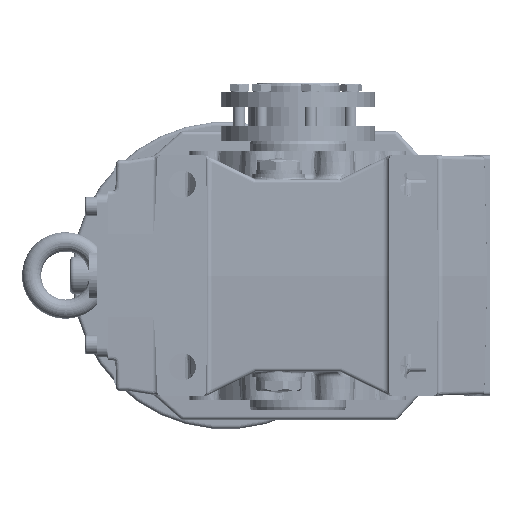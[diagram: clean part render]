
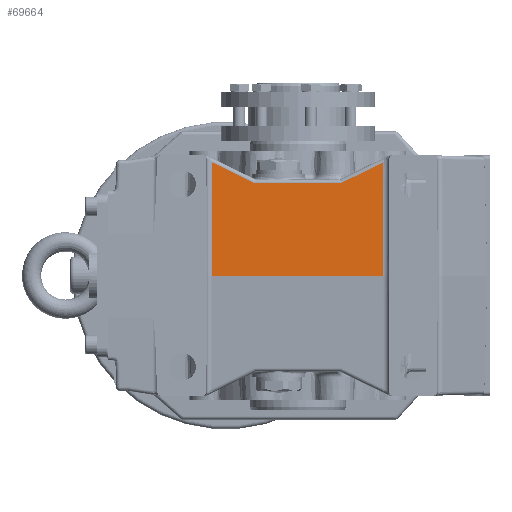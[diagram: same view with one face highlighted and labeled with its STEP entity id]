
A CAD part, left-side view. The second image highlights one B-rep face of the part: STEP entity #69664.
In plain terms, the highlighted planar face has unit normal (-1, 0, 0.026).
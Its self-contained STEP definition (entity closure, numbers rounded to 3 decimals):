
#26896=CARTESIAN_POINT('',(-88.309,-44.5,0.));
#26897=VERTEX_POINT('',#26896);
#26965=CARTESIAN_POINT('',(-86.768,-44.5,58.854));
#26966=VERTEX_POINT('',#26965);
#26974=CARTESIAN_POINT('',(-86.768,-44.5,58.854));
#26975=DIRECTION('',(-0.026,0.,-1.));
#26976=VECTOR('',#26975,58.875);
#26977=LINE('',#26974,#26976);
#26978=EDGE_CURVE('',#26966,#26897,#26977,.T.);
#27401=CARTESIAN_POINT('',(-88.309,44.5,0.));
#27402=VERTEX_POINT('',#27401);
#27410=CARTESIAN_POINT('',(-86.768,44.5,58.854));
#27411=VERTEX_POINT('',#27410);
#27412=CARTESIAN_POINT('',(-88.309,44.5,0.));
#27413=DIRECTION('',(0.026,0.0,1.));
#27414=VECTOR('',#27413,58.875);
#27415=LINE('',#27412,#27414);
#27416=EDGE_CURVE('',#27402,#27411,#27415,.T.);
#64288=CARTESIAN_POINT('',(-87.051,22.464,48.052));
#64289=VERTEX_POINT('',#64288);
#64297=CARTESIAN_POINT('',(-87.051,-22.464,48.052));
#64298=VERTEX_POINT('',#64297);
#64299=CARTESIAN_POINT('',(-87.051,22.464,48.052));
#64300=DIRECTION('',(0.0,-1.0,0.0));
#64301=VECTOR('',#64300,44.928);
#64302=LINE('',#64299,#64301);
#64303=EDGE_CURVE('',#64289,#64298,#64302,.T.);
#69433=CARTESIAN_POINT('',(-87.051,-22.464,48.052));
#69434=DIRECTION('',(0.012,-0.898,0.44));
#69435=VECTOR('',#69434,24.543);
#69436=LINE('',#69433,#69435);
#69437=EDGE_CURVE('',#64298,#26966,#69436,.T.);
#69454=CARTESIAN_POINT('',(-86.768,44.5,58.854));
#69455=DIRECTION('',(-0.012,-0.898,-0.44));
#69456=VECTOR('',#69455,24.543);
#69457=LINE('',#69454,#69456);
#69458=EDGE_CURVE('',#27411,#64289,#69457,.T.);
#69646=CARTESIAN_POINT('',(-88.309,-97.,0.017));
#69647=DIRECTION('',(-1.,0.,0.026));
#69648=DIRECTION('',(0.026,0.,1.));
#69649=AXIS2_PLACEMENT_3D('',#69646,#69647,#69648);
#69650=PLANE('',#69649);
#69651=ORIENTED_EDGE('',*,*,#69458,.F.);
#69652=ORIENTED_EDGE('',*,*,#27416,.F.);
#69653=CARTESIAN_POINT('',(-88.309,-44.5,0.));
#69654=DIRECTION('',(0.0,1.0,0.0));
#69655=VECTOR('',#69654,89.);
#69656=LINE('',#69653,#69655);
#69657=EDGE_CURVE('',#27402,#26897,#69656,.F.);
#69658=ORIENTED_EDGE('',*,*,#69657,.T.);
#69659=ORIENTED_EDGE('',*,*,#26978,.F.);
#69660=ORIENTED_EDGE('',*,*,#69437,.F.);
#69661=ORIENTED_EDGE('',*,*,#64303,.F.);
#69662=EDGE_LOOP('',(#69651,#69652,#69658,#69659,#69660,#69661));
#69663=FACE_OUTER_BOUND('',#69662,.T.);
#69664=ADVANCED_FACE('',(#69663),#69650,.T.);
